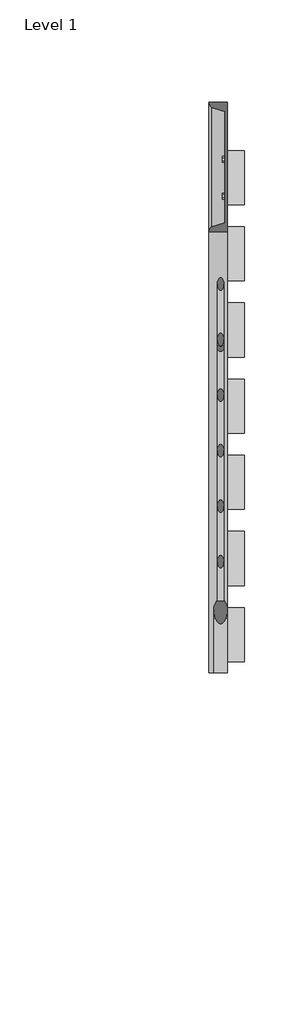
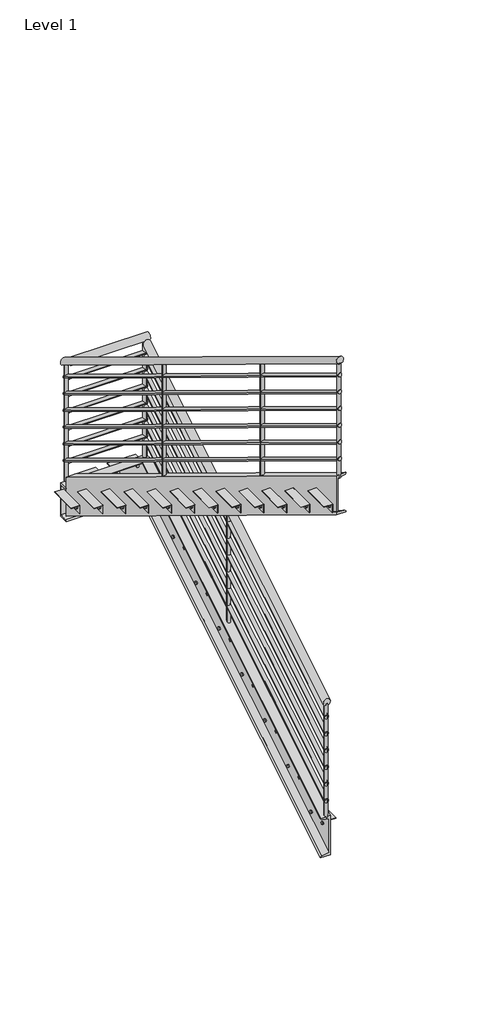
# One storey, incomplete: 2 railings.
"""IFC4 building model written with IfcOpenShell, lengths in millimetres."""

from ifc_helpers import new_model, si_unit, origin, place, context, project, spatial, transform, mapped, element, save
from components import handrail_pipe_2_0bb0e65d, stringer_channel_shaped_c7955195, stringer_channel_shaped_5b7d0e47

model = new_model("IFC4")

# Units and contexts
model_context = context("Model", 3, world=origin())
ifc_project = project(units=[si_unit("LENGTHUNIT", "METRE", prefix="MILLI")], contexts=[model_context])

# Site, building, storey
site = spatial("IfcSite", under=ifc_project)
building = spatial("IfcBuilding", under=site)
storey = spatial("IfcBuildingStorey", under=building, Name="Level 1", Elevation=0.0)

# Railings
placement = place(None, origin())
handrail_pipe_2_shape = handrail_pipe_2_0bb0e65d(model_context)
element("IfcRailing", 1, ObjectType="Handrail - Pipe 2", at=placement, inside=storey, context=model_context, shape_type="MappedRepresentation", body=[
    mapped(handrail_pipe_2_shape, transform((0.0, 0.0, 0.0), x_axis=(1.0, 0.0, 0.0), y_axis=(0.0, 1.0, 0.0), z_axis=(0.0, 0.0, 1.0))),
])
stringer_channel_shaped_shape = stringer_channel_shaped_c7955195(model_context)
stringer_channel_shaped_2_shape = stringer_channel_shaped_5b7d0e47(model_context)
element("IfcRailing", 2, ObjectType="Stringer - Channel Shaped", at=placement, inside=storey, context=model_context, shape_type="MappedRepresentation", body=[
    mapped(stringer_channel_shaped_shape, transform((0.0, 0.0, 0.0), x_axis=(1.0, 0.0, 0.0), y_axis=(0.0, 1.0, 0.0), z_axis=(0.0, 0.0, 1.0))),
    mapped(stringer_channel_shaped_2_shape, transform((0.0, 0.0, 0.0), x_axis=(1.0, 0.0, 0.0), y_axis=(0.0, 1.0, 0.0), z_axis=(0.0, 0.0, 1.0))),
])

save(model, "model.ifc")
